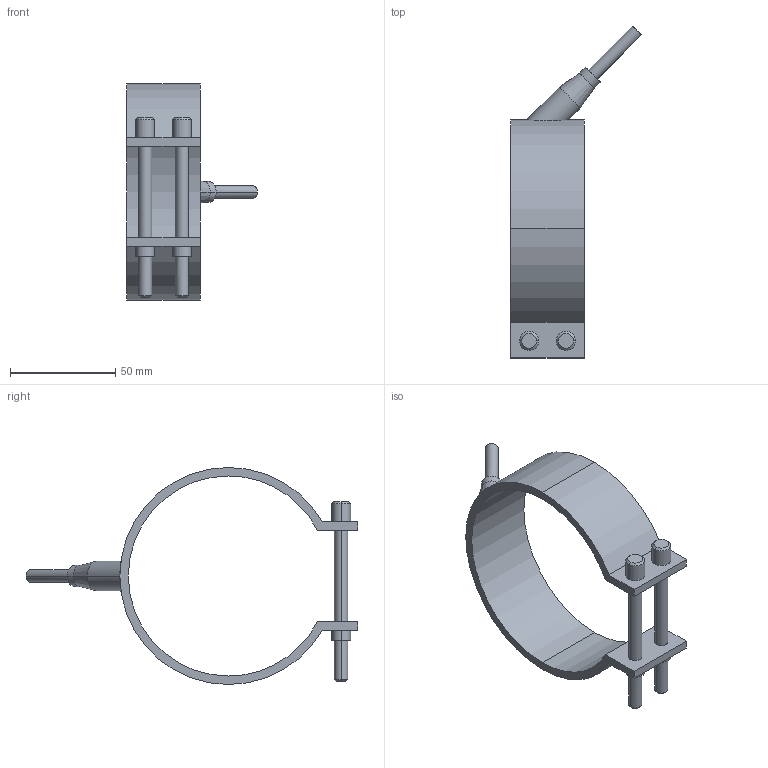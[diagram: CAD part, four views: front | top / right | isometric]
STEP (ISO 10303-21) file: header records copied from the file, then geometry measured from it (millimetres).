
FILE_DESCRIPTION(('CATIA V5 STEP Exchange'),'2;1');
FILE_NAME('C:\Users\Utente\Desktop\IO LAVORO\3D X SITO CF\X SITO\PLASTICA\RF1\29095035.stp','2021-03-29T17:53:56+00:00',('none'),('none'),'CATIA Version 5 Release 20 GA (IN-10)','CATIA V5 STEP AP203','none');
FILE_SCHEMA(('CONFIG_CONTROL_DESIGN'));
Length unit declared in the file: millimetre
Products named in the file (1): 29095035
Bounding box: 62.05 x 157.55 x 103 mm (x, y, z)
Volume: 52227.4 mm3; surface area: 28291.7 mm2
Topology: 1 solids, 1 shells, 54 faces, 123 edges, 79 vertices
Faces by surface type: cylinder 28, plane 16, cone 10
Entity records: 1728 total; most frequent: CARTESIAN_POINT 496, ORIENTED_EDGE 246, DIRECTION 213, EDGE_CURVE 123, AXIS2_PLACEMENT_3D 106, VERTEX_POINT 79, EDGE_LOOP 66, VECTOR 56
